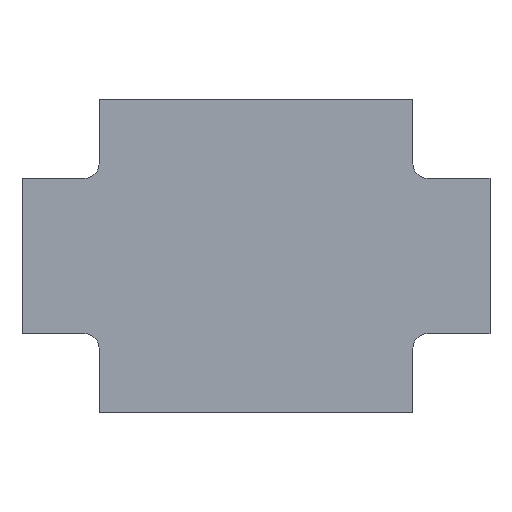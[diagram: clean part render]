
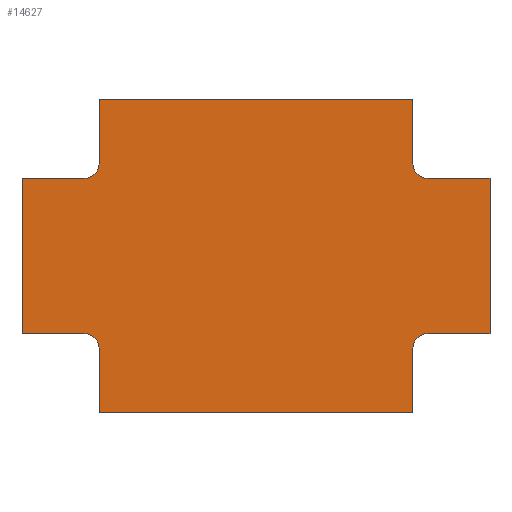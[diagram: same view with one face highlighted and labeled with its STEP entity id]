
A CAD part, front view. The second image highlights one B-rep face of the part: STEP entity #14627.
In plain terms, the highlighted planar face has unit normal (0, -1, 0).
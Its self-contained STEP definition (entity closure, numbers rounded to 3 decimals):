
#28 = CARTESIAN_POINT ( 'NONE',  ( 38.782, 0., -18.478 ) ) ;
#436 = EDGE_CURVE ( 'NONE', #12647, #7821, #9735, .T. ) ;
#674 = DIRECTION ( 'NONE',  ( 0., 0., -1. ) ) ;
#696 = CARTESIAN_POINT ( 'NONE',  ( 38.782, 0., -18.478 ) ) ;
#787 = LINE ( 'NONE', #6544, #4232 ) ;
#898 = VERTEX_POINT ( 'NONE', #5815 ) ;
#912 = CARTESIAN_POINT ( 'NONE',  ( 38.782, 0., -17.978 ) ) ;
#943 = VECTOR ( 'NONE', #10166, 1000. ) ;
#1264 = VERTEX_POINT ( 'NONE', #13203 ) ;
#1288 = VECTOR ( 'NONE', #8315, 1000. ) ;
#1415 = CARTESIAN_POINT ( 'NONE',  ( 50.282, 0., -26.703 ) ) ;
#1534 = DIRECTION ( 'NONE',  ( 0., 1., 0. ) ) ;
#1751 = LINE ( 'NONE', #4485, #13897 ) ;
#1766 = ORIENTED_EDGE ( 'NONE', *, *, #8694, .F. ) ;
#1787 = ORIENTED_EDGE ( 'NONE', *, *, #4877, .F. ) ;
#2136 = CARTESIAN_POINT ( 'NONE',  ( 50.782, 0., -24.428 ) ) ;
#2279 = ORIENTED_EDGE ( 'NONE', *, *, #18218, .F. ) ;
#2398 = CARTESIAN_POINT ( 'NONE',  ( 39.282, 0., -17.978 ) ) ;
#2413 = ORIENTED_EDGE ( 'NONE', *, *, #10979, .F. ) ;
#2511 = ORIENTED_EDGE ( 'NONE', *, *, #18482, .F. ) ;
#2764 = ORIENTED_EDGE ( 'NONE', *, *, #14013, .F. ) ;
#3004 = ORIENTED_EDGE ( 'NONE', *, *, #3288, .F. ) ;
#3040 = AXIS2_PLACEMENT_3D ( 'NONE', #17589, #10256, #10442 ) ;
#3065 = DIRECTION ( 'NONE',  ( 0., 0., -1. ) ) ;
#3092 = VECTOR ( 'NONE', #5985, 1000. ) ;
#3116 = ORIENTED_EDGE ( 'NONE', *, *, #3263, .F. ) ;
#3154 = CARTESIAN_POINT ( 'NONE',  ( 50.282, 0., -15.703 ) ) ;
#3167 = CARTESIAN_POINT ( 'NONE',  ( 52.982, 0., -23.928 ) ) ;
#3178 = CARTESIAN_POINT ( 'NONE',  ( 50.782, 0., -23.928 ) ) ;
#3263 = EDGE_CURVE ( 'NONE', #9905, #11180, #14980, .T. ) ;
#3288 = EDGE_CURVE ( 'NONE', #14625, #9905, #787, .T. ) ;
#3330 = DIRECTION ( 'NONE',  ( 1., 0., 0. ) ) ;
#4166 = VERTEX_POINT ( 'NONE', #6120 ) ;
#4232 = VECTOR ( 'NONE', #5117, 1000. ) ;
#4272 = CARTESIAN_POINT ( 'NONE',  ( 36.582, 0., -23.928 ) ) ;
#4472 = CARTESIAN_POINT ( 'NONE',  ( 50.782, 0., -23.928 ) ) ;
#4485 = CARTESIAN_POINT ( 'NONE',  ( 39.282, 0., -24.428 ) ) ;
#4585 = VERTEX_POINT ( 'NONE', #8030 ) ;
#4624 = LINE ( 'NONE', #6034, #943 ) ;
#4699 = EDGE_CURVE ( 'NONE', #8015, #14625, #14207, .T. ) ;
#4796 = EDGE_CURVE ( 'NONE', #898, #12647, #7286, .T. ) ;
#4877 = EDGE_CURVE ( 'NONE', #15088, #9355, #16083, .T. ) ;
#4884 = CIRCLE ( 'NONE', #15083, 0.5 ) ;
#5015 = CARTESIAN_POINT ( 'NONE',  ( 50.782, 0., -18.478 ) ) ;
#5117 = DIRECTION ( 'NONE',  ( 0., 0., 1. ) ) ;
#5139 = ORIENTED_EDGE ( 'NONE', *, *, #4796, .F. ) ;
#5323 = ORIENTED_EDGE ( 'NONE', *, *, #436, .F. ) ;
#5451 = CARTESIAN_POINT ( 'NONE',  ( 38.782, 0., -23.928 ) ) ;
#5815 = CARTESIAN_POINT ( 'NONE',  ( 50.282, 0., -17.978 ) ) ;
#5930 = CARTESIAN_POINT ( 'NONE',  ( 38.782, 0., -23.928 ) ) ;
#5985 = DIRECTION ( 'NONE',  ( -1., 0., 0. ) ) ;
#6034 = CARTESIAN_POINT ( 'NONE',  ( 50.282, 0., -17.978 ) ) ;
#6120 = CARTESIAN_POINT ( 'NONE',  ( 39.282, 0., -24.428 ) ) ;
#6184 = VECTOR ( 'NONE', #674, 1000. ) ;
#6301 = DIRECTION ( 'NONE',  ( 0., 0., 1. ) ) ;
#6382 = VECTOR ( 'NONE', #13700, 1000. ) ;
#6544 = CARTESIAN_POINT ( 'NONE',  ( 36.582, 0., -23.928 ) ) ;
#6586 = DIRECTION ( 'NONE',  ( 0., -1., 0. ) ) ;
#6702 = EDGE_LOOP ( 'NONE', ( #17386, #2511, #15611, #1787, #2279, #2413, #15452, #17238, #5323, #5139, #15111, #1766, #9581, #2764, #3116, #3004 ) ) ;
#7014 = CARTESIAN_POINT ( 'NONE',  ( 39.282, 0., -26.703 ) ) ;
#7176 = DIRECTION ( 'NONE',  ( -1., 0., 0. ) ) ;
#7184 = EDGE_CURVE ( 'NONE', #14057, #14214, #8889, .T. ) ;
#7286 = CIRCLE ( 'NONE', #3040, 0.5 ) ;
#7296 = PLANE ( 'NONE',  #12374 ) ;
#7821 = VERTEX_POINT ( 'NONE', #8412 ) ;
#7830 = CARTESIAN_POINT ( 'NONE',  ( 50.282, 0., -15.703 ) ) ;
#8015 = VERTEX_POINT ( 'NONE', #5451 ) ;
#8030 = CARTESIAN_POINT ( 'NONE',  ( 39.282, 0., -17.978 ) ) ;
#8315 = DIRECTION ( 'NONE',  ( 1., 0., 0. ) ) ;
#8412 = CARTESIAN_POINT ( 'NONE',  ( 52.982, 0., -18.478 ) ) ;
#8638 = DIRECTION ( 'NONE',  ( 0., -1., 0. ) ) ;
#8694 = EDGE_CURVE ( 'NONE', #14164, #12799, #9067, .T. ) ;
#8760 = VECTOR ( 'NONE', #7176, 1000. ) ;
#8808 = LINE ( 'NONE', #3167, #13593 ) ;
#8889 = LINE ( 'NONE', #4472, #3092 ) ;
#9045 = VECTOR ( 'NONE', #14580, 1000. ) ;
#9067 = LINE ( 'NONE', #3154, #14408 ) ;
#9112 = CARTESIAN_POINT ( 'NONE',  ( 50.282, 0., -26.703 ) ) ;
#9355 = VERTEX_POINT ( 'NONE', #7014 ) ;
#9358 = LINE ( 'NONE', #2398, #6382 ) ;
#9497 = CIRCLE ( 'NONE', #14291, 0.5 ) ;
#9581 = ORIENTED_EDGE ( 'NONE', *, *, #10312, .F. ) ;
#9735 = LINE ( 'NONE', #16940, #1288 ) ;
#9905 = VERTEX_POINT ( 'NONE', #17301 ) ;
#9973 = EDGE_CURVE ( 'NONE', #12799, #898, #4624, .T. ) ;
#10145 = CIRCLE ( 'NONE', #11984, 0.5 ) ;
#10166 = DIRECTION ( 'NONE',  ( 0., 0., -1. ) ) ;
#10256 = DIRECTION ( 'NONE',  ( 0., -1., 0. ) ) ;
#10312 = EDGE_CURVE ( 'NONE', #4585, #14164, #9358, .T. ) ;
#10442 = DIRECTION ( 'NONE',  ( 0., 0., 1. ) ) ;
#10569 = DIRECTION ( 'NONE',  ( 1., 0., 0. ) ) ;
#10979 = EDGE_CURVE ( 'NONE', #14214, #1264, #10145, .T. ) ;
#11180 = VERTEX_POINT ( 'NONE', #28 ) ;
#11401 = CARTESIAN_POINT ( 'NONE',  ( 38.782, 0., -17.978 ) ) ;
#11984 = AXIS2_PLACEMENT_3D ( 'NONE', #2136, #6586, #6301 ) ;
#12052 = VECTOR ( 'NONE', #10569, 1000. ) ;
#12172 = LINE ( 'NONE', #13561, #6184 ) ;
#12374 = AXIS2_PLACEMENT_3D ( 'NONE', #11401, #1534, #18550 ) ;
#12647 = VERTEX_POINT ( 'NONE', #5015 ) ;
#12799 = VERTEX_POINT ( 'NONE', #7830 ) ;
#13016 = FACE_OUTER_BOUND ( 'NONE', #6702, .T. ) ;
#13203 = CARTESIAN_POINT ( 'NONE',  ( 50.282, 0., -24.428 ) ) ;
#13561 = CARTESIAN_POINT ( 'NONE',  ( 50.282, 0., -24.428 ) ) ;
#13593 = VECTOR ( 'NONE', #3065, 1000. ) ;
#13700 = DIRECTION ( 'NONE',  ( 0., 0., 1. ) ) ;
#13897 = VECTOR ( 'NONE', #16224, 1000. ) ;
#14013 = EDGE_CURVE ( 'NONE', #11180, #4585, #4884, .T. ) ;
#14057 = VERTEX_POINT ( 'NONE', #17273 ) ;
#14164 = VERTEX_POINT ( 'NONE', #16064 ) ;
#14207 = LINE ( 'NONE', #5930, #8760 ) ;
#14214 = VERTEX_POINT ( 'NONE', #3178 ) ;
#14291 = AXIS2_PLACEMENT_3D ( 'NONE', #14657, #17382, #15993 ) ;
#14408 = VECTOR ( 'NONE', #3330, 1000. ) ;
#14580 = DIRECTION ( 'NONE',  ( -1., 0., 0. ) ) ;
#14625 = VERTEX_POINT ( 'NONE', #4272 ) ;
#14627 = ADVANCED_FACE ( 'NONE', ( #13016 ), #7296, .F. ) ;
#14657 = CARTESIAN_POINT ( 'NONE',  ( 38.782, 0., -24.428 ) ) ;
#14980 = LINE ( 'NONE', #696, #12052 ) ;
#15083 = AXIS2_PLACEMENT_3D ( 'NONE', #912, #8638, #15882 ) ;
#15088 = VERTEX_POINT ( 'NONE', #1415 ) ;
#15111 = ORIENTED_EDGE ( 'NONE', *, *, #9973, .F. ) ;
#15452 = ORIENTED_EDGE ( 'NONE', *, *, #7184, .F. ) ;
#15611 = ORIENTED_EDGE ( 'NONE', *, *, #16347, .F. ) ;
#15882 = DIRECTION ( 'NONE',  ( 0., 0., 1. ) ) ;
#15993 = DIRECTION ( 'NONE',  ( 0., 0., 1. ) ) ;
#16064 = CARTESIAN_POINT ( 'NONE',  ( 39.282, 0., -15.703 ) ) ;
#16083 = LINE ( 'NONE', #9112, #9045 ) ;
#16224 = DIRECTION ( 'NONE',  ( 0., 0., 1. ) ) ;
#16347 = EDGE_CURVE ( 'NONE', #9355, #4166, #1751, .T. ) ;
#16365 = EDGE_CURVE ( 'NONE', #7821, #14057, #8808, .T. ) ;
#16940 = CARTESIAN_POINT ( 'NONE',  ( 50.782, 0., -18.478 ) ) ;
#17238 = ORIENTED_EDGE ( 'NONE', *, *, #16365, .F. ) ;
#17273 = CARTESIAN_POINT ( 'NONE',  ( 52.982, 0., -23.928 ) ) ;
#17301 = CARTESIAN_POINT ( 'NONE',  ( 36.582, 0., -18.478 ) ) ;
#17382 = DIRECTION ( 'NONE',  ( 0., -1., 0. ) ) ;
#17386 = ORIENTED_EDGE ( 'NONE', *, *, #4699, .F. ) ;
#17589 = CARTESIAN_POINT ( 'NONE',  ( 50.782, 0., -17.978 ) ) ;
#18218 = EDGE_CURVE ( 'NONE', #1264, #15088, #12172, .T. ) ;
#18482 = EDGE_CURVE ( 'NONE', #4166, #8015, #9497, .T. ) ;
#18550 = DIRECTION ( 'NONE',  ( 0., 0., 1. ) ) ;
